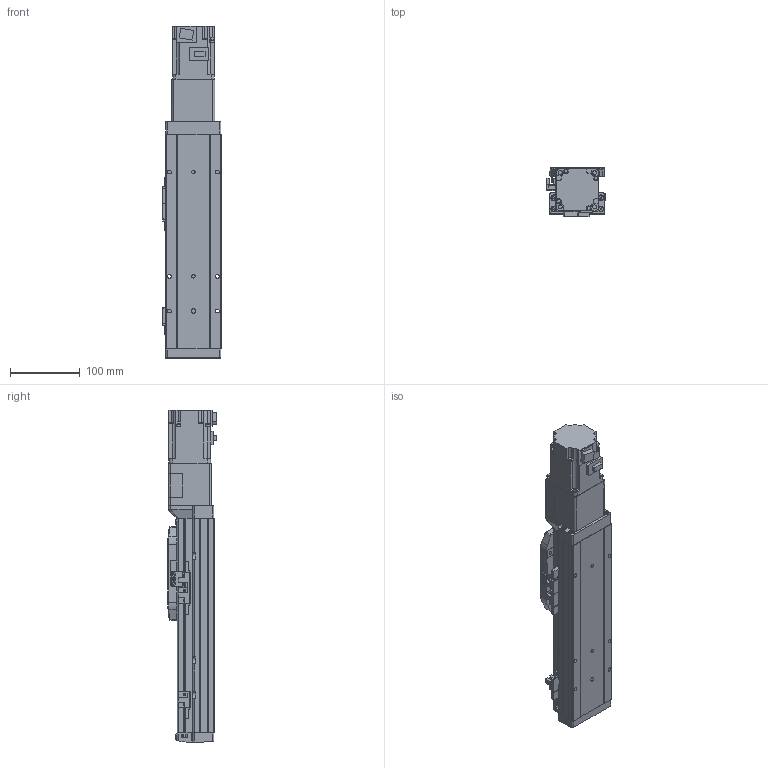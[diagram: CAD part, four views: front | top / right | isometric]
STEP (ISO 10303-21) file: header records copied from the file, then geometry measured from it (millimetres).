
FILE_DESCRIPTION (( 'STEP AP214' ), '1' );
FILE_NAME ('GSH8-150-BC-M20-1.step', '2025-01-07T06:03:09', ( '' ), ( '' ), 'SwSTEP 2.0', 'SolidWorks 2012', '' );
FILE_SCHEMA (( 'AUTOMOTIVE_DESIGN' ));
Length unit declared in the file: millimetre
Products named in the file (4): GSH8-150-BC-M20-1; GSH8-BC-011-150-M20; GSH8-GY-004; HG-KR23_200W_Motor
Assembly tree (3 placements, depth 2):
  GSH8-150-BC-M20-1
    GSH8-BC-011-150-M20
    GSH8-GY-004
    HG-KR23_200W_Motor
Bounding box: 84 x 71.3 x 477.6 mm (x, y, z)
Volume: 1230603.1 mm3; surface area: 286289.7 mm2
Topology: 3 solids, 7 shells, 1090 faces, 2873 edges, 1848 vertices
Faces by surface type: plane 634, cylinder 364, torus 38, cone 26, bspline 24, sphere 4
Entity records: 42879 total; most frequent: CARTESIAN_POINT 9711, DIRECTION 5813, ORIENTED_EDGE 5730, EDGE_CURVE 2865, AXIS2_PLACEMENT_3D 1946, VECTOR 1921, LINE 1921, VERTEX_POINT 1844
